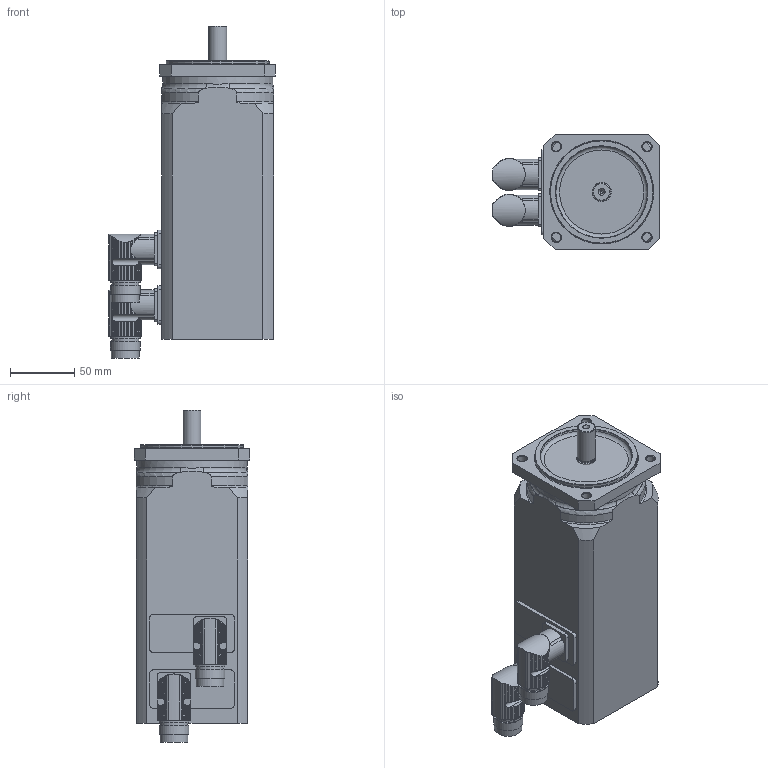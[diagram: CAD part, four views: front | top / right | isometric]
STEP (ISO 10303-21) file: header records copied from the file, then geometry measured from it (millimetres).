
FILE_DESCRIPTION(/* description */ (''),/* implementation_level */ '2;1');
FILE_NAME(/* name */ 'KSY 368 D-MD-R4',/* time_stamp */ '2007-01-03T10:06:48+01:00',/* author */ (''),/* organization */ (''),/* preprocessor_version */ 'ST-DEVELOPER v8',/* originating_system */ 'UNIGRAPHICS SOLUTIONS - UNIGRAPHICS 18.0',/* authorisation */ '');
FILE_SCHEMA (('AUTOMOTIVE_DESIGN { 1 2 10303 214 0 1 1 1 }'));
Length unit declared in the file: millimetre
Products named in the file (3): Winkelflanschdose_0; Rotor_SY3_0; KSY364D-MD-R4_0
Assembly tree (3 placements, depth 2):
  KSY364D-MD-R4_0
    Rotor_SY3_0
    Winkelflanschdose_0  x2
Bounding box: 129.99 x 90 x 258.65 mm (x, y, z)
Volume: 1648172.6 mm3; surface area: 107194.2 mm2
Topology: 4 solids, 4 shells, 427 faces, 1188 edges, 787 vertices
Faces by surface type: cylinder 315, plane 74, cone 17, torus 17, bspline 4
Full cylindrical faces by diameter (mm): 2.5 x1, 7 x4, 13.52 x1, 14 x1, 15 x1, 16 x2, 21 x2, 21.5 x2, 23 x4, 72 x1, 80 x1, 86 x1
Entity records: 8857 total; most frequent: CARTESIAN_POINT 2369, ORIENTED_EDGE 1358, DIRECTION 1280, EDGE_CURVE 679, AXIS2_PLACEMENT_3D 518, VERTEX_POINT 465, EDGE_LOOP 313, ADVANCED_FACE 263
